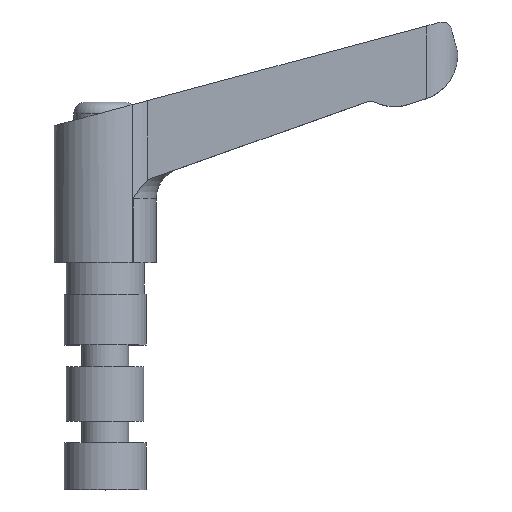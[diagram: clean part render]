
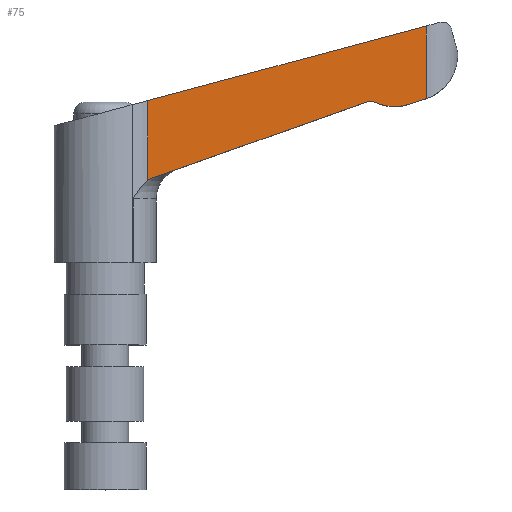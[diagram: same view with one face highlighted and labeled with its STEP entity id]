
A CAD part, top view. The second image highlights one B-rep face of the part: STEP entity #75.
In plain terms, the highlighted planar face has unit normal (0.024, 0, 1).
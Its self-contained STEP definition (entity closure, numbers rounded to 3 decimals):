
#75 = ADVANCED_FACE( '', ( #127 ), #128, .F. );
#127 = FACE_OUTER_BOUND( '', #250, .T. );
#128 = PLANE( '', #251 );
#250 = EDGE_LOOP( '', ( #373, #374, #375, #376, #377, #378, #379, #380, #381 ) );
#251 = AXIS2_PLACEMENT_3D( '', #382, #383, #384 );
#373 = ORIENTED_EDGE( '', *, *, #736, .F. );
#374 = ORIENTED_EDGE( '', *, *, #737, .T. );
#375 = ORIENTED_EDGE( '', *, *, #738, .F. );
#376 = ORIENTED_EDGE( '', *, *, #739, .F. );
#377 = ORIENTED_EDGE( '', *, *, #740, .T. );
#378 = ORIENTED_EDGE( '', *, *, #741, .F. );
#379 = ORIENTED_EDGE( '', *, *, #742, .F. );
#380 = ORIENTED_EDGE( '', *, *, #743, .F. );
#381 = ORIENTED_EDGE( '', *, *, #744, .F. );
#382 = CARTESIAN_POINT( '', ( 5.414, 64., 4.842 ) );
#383 = DIRECTION( '', ( -0.024, 0., -1. ) );
#384 = DIRECTION( '', ( -1., 0., 0.024 ) );
#736 = EDGE_CURVE( '', #841, #842, #843, .T. );
#737 = EDGE_CURVE( '', #841, #844, #845, .T. );
#738 = EDGE_CURVE( '', #846, #844, #847, .T. );
#739 = EDGE_CURVE( '', #848, #846, #849, .T. );
#740 = EDGE_CURVE( '', #848, #850, #851, .T. );
#741 = EDGE_CURVE( '', #852, #850, #853, .T. );
#742 = EDGE_CURVE( '', #854, #852, #855, .T. );
#743 = EDGE_CURVE( '', #856, #854, #857, .T. );
#744 = EDGE_CURVE( '', #842, #856, #858, .T. );
#841 = VERTEX_POINT( '', #1023 );
#842 = VERTEX_POINT( '', #1024 );
#843 = LINE( '', #1025, #1026 );
#844 = VERTEX_POINT( '', #1027 );
#845 = LINE( '', #1028, #1029 );
#846 = VERTEX_POINT( '', #1030 );
#847 = B_SPLINE_CURVE_WITH_KNOTS( '', 3, ( #1031, #1032, #1033, #1034 ), .UNSPECIFIED., .F., .F., ( 4, 4 ), ( 0.003, 0.003 ), .UNSPECIFIED. );
#848 = VERTEX_POINT( '', #1035 );
#849 = LINE( '', #1036, #1037 );
#850 = VERTEX_POINT( '', #1038 );
#851 = ELLIPSE( '', #1039, 1.2, 1.2 );
#852 = VERTEX_POINT( '', #1040 );
#853 = ELLIPSE( '', #1041, 5.895, 5.893 );
#854 = VERTEX_POINT( '', #1042 );
#855 = LINE( '', #1043, #1044 );
#856 = VERTEX_POINT( '', #1045 );
#857 = ELLIPSE( '', #1046, 5.997, 5.995 );
#858 = LINE( '', #1047, #1048 );
#1023 = CARTESIAN_POINT( '', ( 5.414, 49.693, 4.842 ) );
#1024 = CARTESIAN_POINT( '', ( 41.01, 59.231, 3.995 ) );
#1025 = CARTESIAN_POINT( '', ( 42.422, 59.609, 3.961 ) );
#1026 = VECTOR( '', #1382, 1000. );
#1027 = CARTESIAN_POINT( '', ( 5.414, 39.494, 4.842 ) );
#1028 = CARTESIAN_POINT( '', ( 5.414, 64., 4.842 ) );
#1029 = VECTOR( '', #1383, 1000. );
#1030 = CARTESIAN_POINT( '', ( 5.556, 39.632, 4.839 ) );
#1031 = CARTESIAN_POINT( '', ( 5.556, 39.632, 4.839 ) );
#1032 = CARTESIAN_POINT( '', ( 5.508, 39.587, 4.84 ) );
#1033 = CARTESIAN_POINT( '', ( 5.461, 39.541, 4.841 ) );
#1034 = CARTESIAN_POINT( '', ( 5.414, 39.494, 4.842 ) );
#1035 = CARTESIAN_POINT( '', ( 33.456, 49.55, 4.175 ) );
#1036 = CARTESIAN_POINT( '', ( 3.893, 39.041, 4.878 ) );
#1037 = VECTOR( '', #1384, 1000. );
#1038 = CARTESIAN_POINT( '', ( 34.375, 49.502, 4.153 ) );
#1039 = AXIS2_PLACEMENT_3D( '', #1385, #1386, #1387 );
#1040 = CARTESIAN_POINT( '', ( 38.699, 49.2, 4.05 ) );
#1041 = AXIS2_PLACEMENT_3D( '', #1388, #1389, #1390 );
#1042 = CARTESIAN_POINT( '', ( 40.816, 49.871, 4. ) );
#1043 = CARTESIAN_POINT( '', ( 38.408, 49.108, 4.057 ) );
#1044 = VECTOR( '', #1391, 1000. );
#1045 = CARTESIAN_POINT( '', ( 41.01, 49.937, 3.995 ) );
#1046 = AXIS2_PLACEMENT_3D( '', #1392, #1393, #1394 );
#1047 = CARTESIAN_POINT( '', ( 41.01, 64., 3.995 ) );
#1048 = VECTOR( '', #1395, 1000. );
#1382 = DIRECTION( '', ( 0.966, 0.259, -0.023 ) );
#1383 = DIRECTION( '', ( 0., -1., 0. ) );
#1384 = DIRECTION( '', ( -0.942, -0.335, 0.022 ) );
#1385 = CARTESIAN_POINT( '', ( 33.858, 48.42, 4.165 ) );
#1386 = DIRECTION( '', ( -0.024, 0., -1. ) );
#1387 = DIRECTION( '', ( 1., 0., -0.024 ) );
#1388 = CARTESIAN_POINT( '', ( 36.919, 54.818, 4.092 ) );
#1389 = DIRECTION( '', ( -0.024, 0., -1. ) );
#1390 = DIRECTION( '', ( 1., 0., -0.024 ) );
#1391 = DIRECTION( '', ( -0.953, -0.302, 0.023 ) );
#1392 = CARTESIAN_POINT( '', ( 39.005, 55.586, 4.043 ) );
#1393 = DIRECTION( '', ( -0.024, 0., -1. ) );
#1394 = DIRECTION( '', ( 1., 0., -0.024 ) );
#1395 = DIRECTION( '', ( 0., -1., 0. ) );
